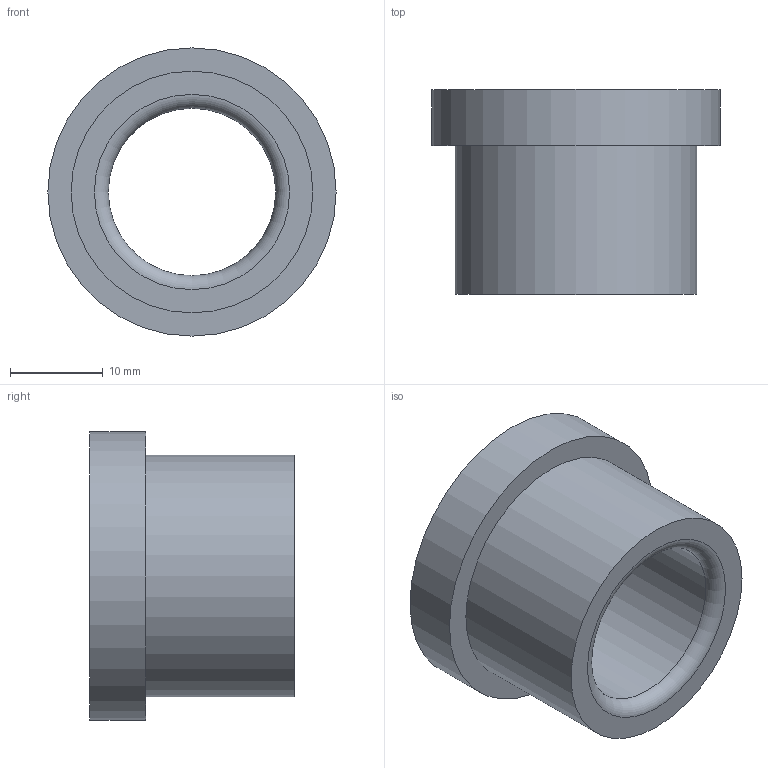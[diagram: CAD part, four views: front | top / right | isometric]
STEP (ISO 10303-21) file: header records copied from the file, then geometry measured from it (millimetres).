
FILE_DESCRIPTION(/* description */ ('STEP AP214'),/* implementation_level */ '2;1');
FILE_NAME(/* name */ '03_12_17916',/* time_stamp */ '2023-06-15T11:35:29+02:00',/* author */ ('License CC BY-ND 4.0'),/* organization */ ('CADENAS'),/* preprocessor_version */ 'ST-DEVELOPER v19.3',/* originating_system */ 'PARTsolutions',/* authorisation */ ' ');
FILE_SCHEMA (('AUTOMOTIVE_DESIGN {1 0 10303 214 3 1 1}'));
Length unit declared in the file: millimetre
Products named in the file (1): VA_Bushing_17916
Bounding box: 31 x 22 x 31 mm (x, y, z)
Volume: 7291.7 mm3; surface area: 4072.2 mm2
Topology: 1 solids, 1 shells, 10 faces, 16 edges, 10 vertices
Faces by surface type: cylinder 4, plane 4, torus 2
Full cylindrical faces by diameter (mm): 18 x1, 18.6 x1, 26 x1, 31 x1
Entity records: 302 total; most frequent: DIRECTION 42, CARTESIAN_POINT 31, AXIS2_PLACEMENT_3D 21, ORIENTED_EDGE 20, EDGE_LOOP 20, FACE_BOUND 20, EDGE_CURVE 10, VERTEX_POINT 10
